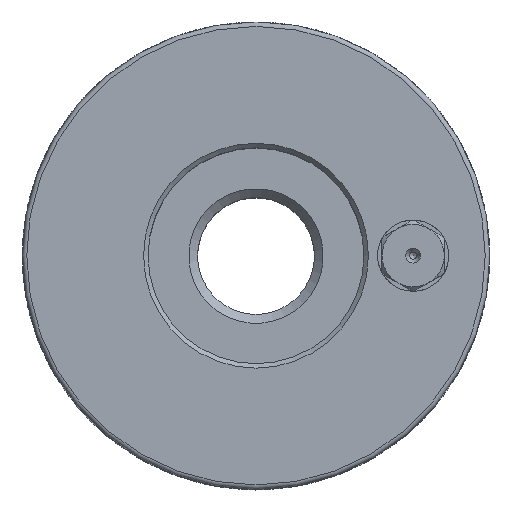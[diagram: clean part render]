
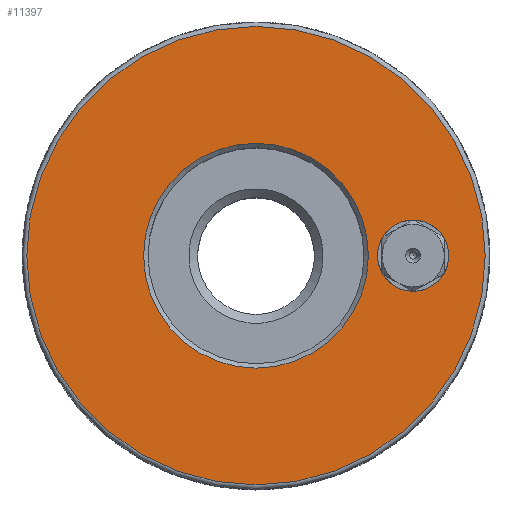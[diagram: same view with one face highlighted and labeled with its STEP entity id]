
A CAD part, top view. The second image highlights one B-rep face of the part: STEP entity #11397.
In plain terms, the highlighted planar face has unit normal (0, 0, 1).
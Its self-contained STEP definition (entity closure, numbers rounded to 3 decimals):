
#456=PLANE('',#12444);
#5812=ORIENTED_EDGE('',*,*,#7592,.T.);
#5813=ORIENTED_EDGE('',*,*,#7593,.T.);
#5814=ORIENTED_EDGE('',*,*,#7594,.T.);
#7592=EDGE_CURVE('',#8737,#8737,#9193,.F.);
#7593=EDGE_CURVE('',#8738,#8738,#9194,.T.);
#7594=EDGE_CURVE('',#8739,#8739,#9195,.T.);
#8737=VERTEX_POINT('',#19193);
#8738=VERTEX_POINT('',#19195);
#8739=VERTEX_POINT('',#19197);
#9193=CIRCLE('',#12445,51.5);
#9194=CIRCLE('',#12446,25.25);
#9195=CIRCLE('',#12447,8.);
#9823=EDGE_LOOP('',(#5812));
#9824=EDGE_LOOP('',(#5813));
#9825=EDGE_LOOP('',(#5814));
#10531=FACE_BOUND('',#9823,.T.);
#10532=FACE_BOUND('',#9824,.T.);
#10533=FACE_BOUND('',#9825,.T.);
#11397=ADVANCED_FACE('',(#10531,#10532,#10533),#456,.F.);
#12444=AXIS2_PLACEMENT_3D('',#19191,#15500,#15501);
#12445=AXIS2_PLACEMENT_3D('',#19192,#15502,#15503);
#12446=AXIS2_PLACEMENT_3D('',#19194,#15504,#15505);
#12447=AXIS2_PLACEMENT_3D('',#19196,#15506,#15507);
#15500=DIRECTION('',(0.,0.,-1.));
#15501=DIRECTION('',(-1.,0.,0.));
#15502=DIRECTION('',(0.,0.,-1.));
#15503=DIRECTION('',(-1.,0.,0.));
#15504=DIRECTION('',(0.,0.,-1.));
#15505=DIRECTION('',(-1.,0.,0.));
#15506=DIRECTION('',(0.,0.,-1.));
#15507=DIRECTION('',(-1.,0.,0.));
#19191=CARTESIAN_POINT('',(52.5,0.,44.));
#19192=CARTESIAN_POINT('',(0.,0.,44.));
#19193=CARTESIAN_POINT('',(-51.5,0.,44.));
#19194=CARTESIAN_POINT('',(0.,0.,44.));
#19195=CARTESIAN_POINT('',(-25.25,0.,44.));
#19196=CARTESIAN_POINT('',(35.3,0.,44.));
#19197=CARTESIAN_POINT('',(27.3,0.,44.));
